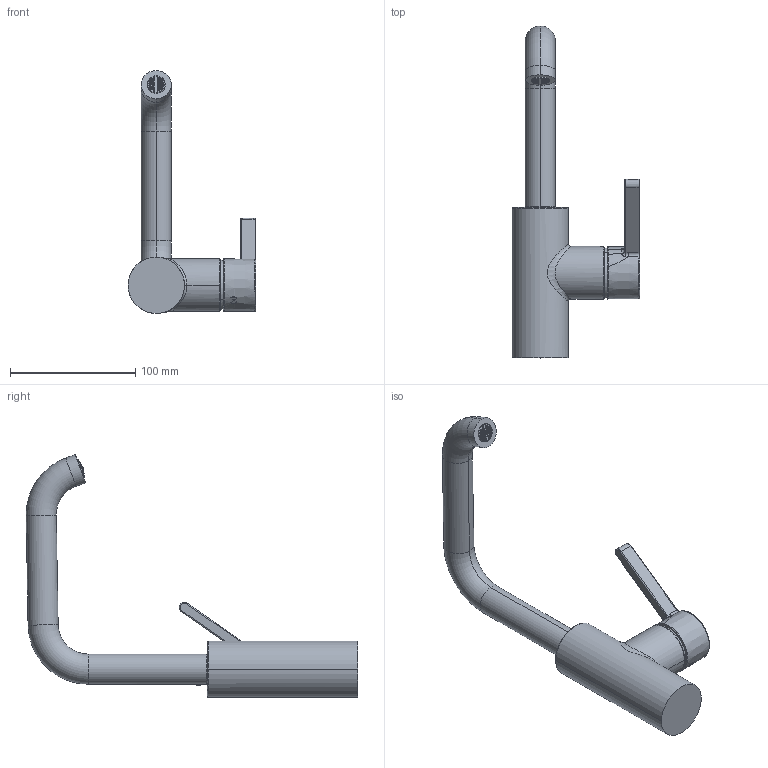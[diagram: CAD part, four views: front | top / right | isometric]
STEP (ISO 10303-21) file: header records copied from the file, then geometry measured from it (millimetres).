
FILE_DESCRIPTION((''),'2;1');
FILE_NAME('12421142','2018-10-04T',('DB991'),(''),'CREO PARAMETRIC BY PTC INC, 2016260','CREO PARAMETRIC BY PTC INC, 2016260','');
FILE_SCHEMA(('CONFIG_CONTROL_DESIGN'));
Length unit declared in the file: millimetre
Products named in the file (1): 12421142
Bounding box: 102.1 x 264.69 x 193.78 mm (x, y, z)
Volume: 411719.2 mm3; surface area: 53150.3 mm2
Topology: 1 solids, 1 shells, 626 faces, 1682 edges, 1086 vertices
Faces by surface type: plane 277, torus 276, cylinder 37, sphere 15, bspline 15, cone 6
Entity records: 22751 total; most frequent: CARTESIAN_POINT 7620, ORIENTED_EDGE 3358, DIRECTION 2988, EDGE_CURVE 1679, AXIS2_PLACEMENT_3D 1247, VERTEX_POINT 1086, EDGE_LOOP 657, CIRCLE 636
